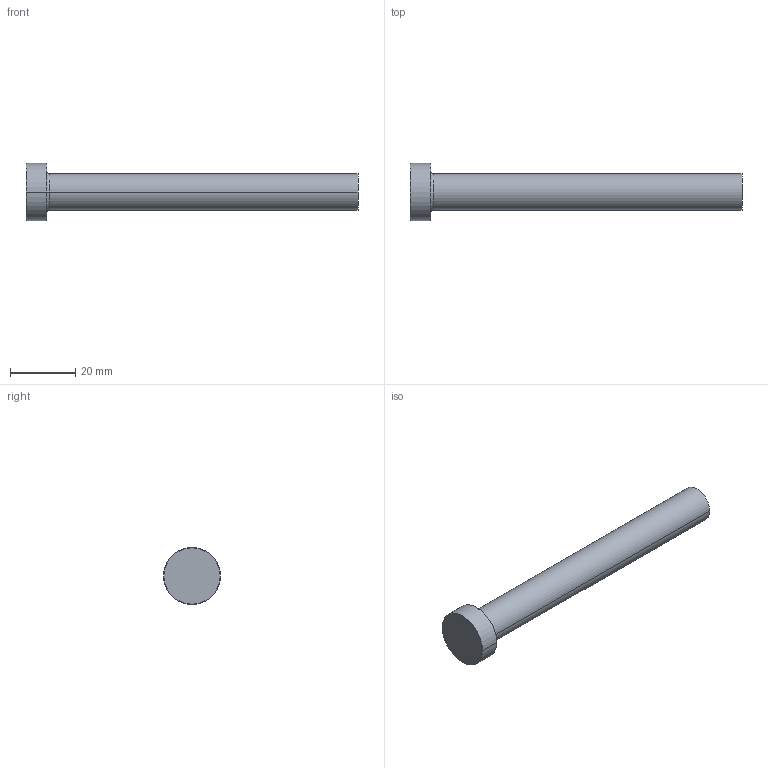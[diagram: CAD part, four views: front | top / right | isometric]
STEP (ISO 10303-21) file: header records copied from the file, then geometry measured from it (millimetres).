
FILE_DESCRIPTION (( 'STEP AP214' ), '1' );
FILE_NAME ('P29-4.STEP', '2020-03-12T10:26:45', ( '' ), ( '' ), 'SwSTEP 2.0', 'SolidWorks 2018', '' );
FILE_SCHEMA (( 'AUTOMOTIVE_DESIGN' ));
Length unit declared in the file: inch
Products named in the file (1): P29-4
Bounding box: 101.6 x 17.46 x 17.46 mm (x, y, z)
Volume: 10750.1 mm3; surface area: 4132.6 mm2
Topology: 1 solids, 1 shells, 13 faces, 24 edges, 14 vertices
Faces by surface type: cone 4, cylinder 4, plane 3, torus 2
Entity records: 366 total; most frequent: DIRECTION 68, CARTESIAN_POINT 52, ORIENTED_EDGE 48, AXIS2_PLACEMENT_3D 30, EDGE_CURVE 24, CIRCLE 16, VERTEX_POINT 14, EDGE_LOOP 14
